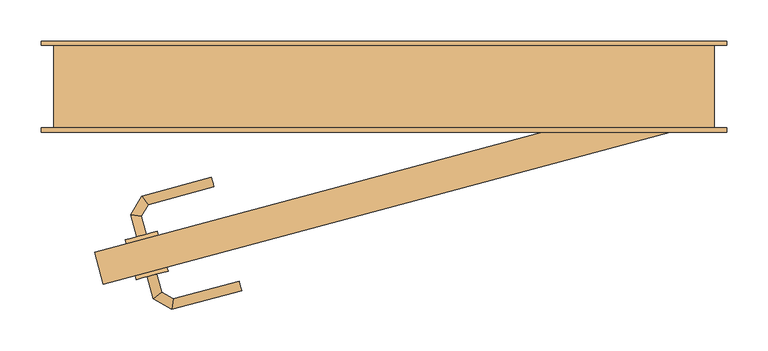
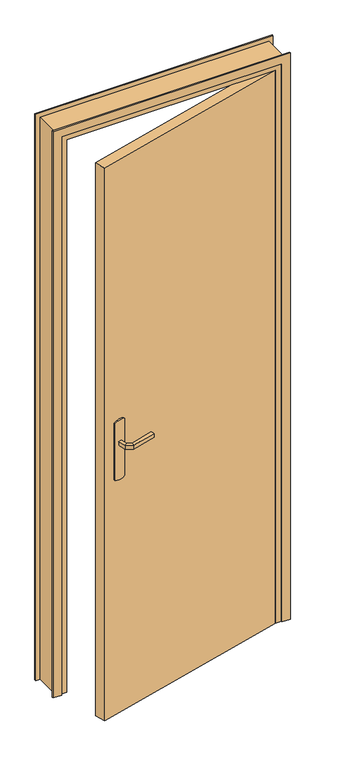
"""IFC4 building model written with IfcOpenShell, lengths in millimetres: door geometry, @_Int. Simple : @_PP (0.73m x 2.04m)."""

from ifc_helpers import new_model, si_unit, point, frame, frame_2d, origin, origin_with_axes, place, context, project, spatial, polyline, circle_curve, ellipse_curve, trimmed, segment, composite_curve, outline, extrude, faceted_brep, source, transform, mapped, element, save
from ifc_brep_helpers import plane_surface, cylinder_surface, advanced_brep


def door_9cb2127b(model_context):
    return source(origin(), model_context, "Body", "SolidModel", [
        extrude(outline(composite_curve([segment(trimmed(circle_curve(frame_2d((0.0, -40.0000001)), 40.0), [point((-34.6410162, -60.0))], [point((-34.6410162, -20.0000001))], False, "CARTESIAN"), True, "CONTINUOUS"), segment(polyline([(-34.6410162, -20.0000001), (175.3589838, -20.0000001)]), True, "CONTINUOUS"), segment(trimmed(circle_curve(frame_2d((140.7179676, -40.0000001)), 40.0), [point((175.3589838, -20.0000001))], [point((175.3589838, -60.0))], False, "CARTESIAN"), True, "CONTINUOUS"), segment(polyline([(175.3589838, -60.0), (-34.6410162, -60.0)]), True, "CONTINUOUS")], self_intersect=False)), frame((-277.2391753, -217.8856275, 904.6410162), z_axis=(-0.258819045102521, 0.9659258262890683, 0.0), x_axis=(0.0, 0.0, 1.0)), (0.0, 0.0, 1.0), 5.0),
        extrude(outline(composite_curve([segment(trimmed(circle_curve(frame_2d((0.0, -39.9999999)), 40.0), [point((34.6410162, -20.0))], [point((34.6410162, -59.9999999))], False, "CARTESIAN"), True, "CONTINUOUS"), segment(polyline([(34.6410162, -59.9999999), (-175.3589838, -59.9999999)]), True, "CONTINUOUS"), segment(trimmed(circle_curve(frame_2d((-140.7179676, -39.9999999)), 40.0), [point((-175.3589838, -59.9999999))], [point((-175.3589838, -20.0))], False, "CARTESIAN"), True, "CONTINUOUS"), segment(polyline([(-175.3589838, -20.0), (34.6410162, -20.0)]), True, "CONTINUOUS")], self_intersect=False)), frame((-288.8860324, -174.4189654, 1045.3589838), z_axis=(-0.258819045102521, 0.9659258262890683, 0.0), x_axis=(0.0, 0.0, 1.0)), (0.0, 0.0, 1.0), 5.0),
        advanced_brep(
        [(-321.6717633, -229.7913036, 1007.0), (-310.0806534, -226.6854751, 1007.0), (-310.0806534, -226.6854751, 993.0), (-321.6717633, -229.7913036, 993.0), (-314.5151707, -256.500071, 1007.0), (-304.2105371, -248.5930476, 1007.0), (-304.2105371, -248.5930476, 993.0), (-314.5151707, -256.500071, 993.0), (-292.007777, -269.4947208, 1007.0), (-290.3124106, -256.6171346, 1007.0), (-290.3124106, -256.6171346, 993.0), (-292.007777, -269.4947208, 993.0), (-207.3526557, -246.8114494, 1007.0), (-207.3526557, -246.8114494, 993.0), (-210.4584843, -235.2203395, 993.0), (-210.4584843, -235.2203395, 1007.0)],
        [
            (0, 1, circle_curve(frame((-315.8762084, -228.2383894, 986.9542278), z_axis=(-0.2588190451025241, 0.9659258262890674, 0.0), x_axis=(0.9659258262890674, 0.2588190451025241, 0.0)), 20.9244589)),
            (1, 2),
            (2, 3, circle_curve(frame((-315.8762084, -228.2383894, 1013.0457722), z_axis=(-0.2588190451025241, 0.9659258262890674, 0.0), x_axis=(0.9659258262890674, 0.2588190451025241, 0.0)), 20.9244589)),
            (3, 0),
            (0, 4),
            (4, 5, ellipse_curve(frame((-309.3628539, -252.5465593, 986.9542278), z_axis=(-0.6087614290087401, 0.7933533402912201, 0.0), x_axis=(0.7933533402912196, 0.6087614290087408, 0.0)), 22.6484711, 20.9244589)),
            (5, 1),
            (5, 6),
            (6, 2),
            (6, 7, ellipse_curve(frame((-309.3628539, -252.5465593, 1013.0457722), z_axis=(-0.6087614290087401, 0.7933533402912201, 0.0), x_axis=(0.7933533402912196, 0.6087614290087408, 0.0)), 22.6484711, 20.9244589)),
            (7, 3),
            (7, 4),
            (4, 8),
            (8, 9, ellipse_curve(frame((-291.1600938, -263.0559277, 986.9542278), z_axis=(-0.9914448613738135, 0.13052619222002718, 0.0), x_axis=(0.1305261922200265, 0.9914448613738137, 0.0)), 22.6484711, 20.9244589)),
            (9, 5),
            (9, 10),
            (10, 6),
            (10, 11, ellipse_curve(frame((-291.1600938, -263.0559277, 1013.0457722), z_axis=(-0.9914448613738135, 0.13052619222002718, 0.0), x_axis=(0.1305261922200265, 0.9914448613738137, 0.0)), 22.6484711, 20.9244589)),
            (11, 7),
            (11, 8),
            (12, 13),
            (13, 14, circle_curve(frame((-208.90557, -241.0158945, 1013.0457722), z_axis=(0.9659258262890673, 0.25881904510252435, 0.0), x_axis=(-0.25881904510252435, 0.9659258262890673, 0.0)), 20.9244589)),
            (14, 15),
            (15, 12, circle_curve(frame((-208.90557, -241.0158945, 986.9542278), z_axis=(0.9659258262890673, 0.25881904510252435, 0.0), x_axis=(-0.25881904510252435, 0.9659258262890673, 0.0)), 20.9244589)),
            (8, 12),
            (15, 9),
            (14, 10),
            (13, 11),
        ],
        [
            plane_surface(frame((-324.7816045, -230.624583, 1000.0), z_axis=(-0.2588190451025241, 0.9659258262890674, 0.0), x_axis=(0.0, 0.0, -1.0))),
            cylinder_surface(frame((-315.8762084, -228.2383894, 986.9542278), z_axis=(-0.2588190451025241, 0.9659258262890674, 0.0), x_axis=(0.9659258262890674, 0.2588190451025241, 0.0)), 20.9244589),
            plane_surface(frame((-310.0806534, -226.6854751, 1007.0), z_axis=(0.9659258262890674, 0.2588190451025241, 0.0), x_axis=(0.2588190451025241, -0.9659258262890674, 0.0))),
            cylinder_surface(frame((-315.8762084, -228.2383894, 1013.0457722), z_axis=(-0.2588190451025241, 0.9659258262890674, 0.0), x_axis=(0.9659258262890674, 0.2588190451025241, 0.0)), 20.9244589),
            plane_surface(frame((-321.6717633, -229.7913036, 993.0), z_axis=(-0.9659258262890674, -0.2588190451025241, 0.0), x_axis=(0.2588190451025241, -0.9659258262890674, 0.0))),
            cylinder_surface(frame((-309.3628539, -252.5465593, 986.9542278), z_axis=(-0.8660254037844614, 0.4999999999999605, 0.0), x_axis=(0.4999999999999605, 0.8660254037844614, 0.0)), 20.9244589),
            plane_surface(frame((-304.2105371, -248.5930476, 1007.0), z_axis=(0.4999999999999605, 0.8660254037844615, 0.0), x_axis=(0.8660254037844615, -0.4999999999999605, 0.0))),
            cylinder_surface(frame((-309.3628539, -252.5465593, 1013.0457722), z_axis=(-0.8660254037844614, 0.4999999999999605, 0.0), x_axis=(0.4999999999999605, 0.8660254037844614, 0.0)), 20.9244589),
            plane_surface(frame((-314.5151707, -256.500071, 993.0), z_axis=(-0.4999999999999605, -0.8660254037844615, 0.0), x_axis=(0.8660254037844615, -0.4999999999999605, 0.0))),
            plane_surface(frame((-208.90557, -241.0158945, 990.7804555), z_axis=(0.9659258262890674, 0.2588190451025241, 0.0), x_axis=(-0.2588190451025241, 0.9659258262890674, 0.0))),
            cylinder_surface(frame((-291.1600938, -263.0559277, 986.9542278), z_axis=(-0.9659258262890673, -0.25881904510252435, 0.0), x_axis=(-0.25881904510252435, 0.9659258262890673, 0.0)), 20.9244589),
            plane_surface(frame((-290.3124106, -256.6171346, 1007.0), z_axis=(-0.2588190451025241, 0.9659258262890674, 0.0), x_axis=(0.9659258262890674, 0.2588190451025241, 0.0))),
            cylinder_surface(frame((-291.1600938, -263.0559277, 1013.0457722), z_axis=(-0.9659258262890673, -0.25881904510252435, 0.0), x_axis=(-0.25881904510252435, 0.9659258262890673, 0.0)), 20.9244589),
            plane_surface(frame((-292.007777, -269.4947208, 993.0), z_axis=(0.2588190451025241, -0.9659258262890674, 0.0), x_axis=(0.9659258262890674, 0.2588190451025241, 0.0))),
        ],
        [
            (0, [[1, 2, 3, 4]]),
            (1, [[-1, 5, 6, 7]]),
            (2, [[-2, -7, 8, 9]]),
            (3, [[-3, -9, 10, 11]]),
            (4, [[-4, -11, 12, -5]]),
            (5, [[-6, 13, 14, 15]]),
            (6, [[-8, -15, 16, 17]]),
            (7, [[-10, -17, 18, 19]]),
            (8, [[-12, -19, 20, -13]]),
            (9, [[21, 22, 23, 24]]),
            (10, [[-14, 25, -24, 26]]),
            (11, [[-16, -26, -23, 27]]),
            (12, [[-18, -27, -22, 28]]),
            (13, [[-20, -28, -21, -25]]),
        ],
    ),
        advanced_brep(
        [(-323.0216057, -178.3891838, 993.0), (-323.0216057, -178.3891838, 1007.0), (-334.6127156, -181.4950123, 1007.0), (-334.6127156, -181.4950123, 993.0), (-328.8412048, -156.670144, 993.0), (-328.8412048, -156.670144, 1007.0), (-341.7187911, -154.9747776, 1007.0), (-341.7187911, -154.9747776, 993.0), (-320.7198845, -142.6036046, 993.0), (-320.7198845, -142.6036046, 1007.0), (-328.626908, -132.298971, 1007.0), (-328.626908, -132.298971, 993.0), (-240.9725631, -121.2353742, 993.0), (-244.0783917, -109.6442643, 993.0), (-244.0783917, -109.6442643, 1007.0), (-240.9725631, -121.2353742, 1007.0)],
        [
            (0, 1),
            (1, 2, circle_curve(frame((-328.8171606, -179.942098, 986.9542278), z_axis=(0.2588190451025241, -0.9659258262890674, 0.0), x_axis=(-0.9659258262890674, -0.2588190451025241, 0.0)), 20.9244589)),
            (2, 3),
            (3, 0, circle_curve(frame((-328.8171606, -179.942098, 1013.0457722), z_axis=(0.2588190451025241, -0.9659258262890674, 0.0), x_axis=(-0.9659258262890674, -0.2588190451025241, 0.0)), 20.9244589)),
            (0, 4),
            (4, 5),
            (5, 1),
            (5, 6, ellipse_curve(frame((-335.279998, -155.8224608, 986.9542278), z_axis=(-0.13052619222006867, -0.991444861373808, 0.0), x_axis=(0.9914448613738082, -0.1305261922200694, 0.0)), 22.6484711, 20.9244589)),
            (6, 2),
            (6, 7),
            (7, 3),
            (7, 4, ellipse_curve(frame((-335.279998, -155.8224608, 1013.0457722), z_axis=(-0.13052619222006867, -0.991444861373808, 0.0), x_axis=(0.9914448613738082, -0.1305261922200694, 0.0)), 22.6484711, 20.9244589)),
            (4, 8),
            (8, 9),
            (9, 5),
            (9, 10, ellipse_curve(frame((-324.6733962, -137.4512878, 986.9542278), z_axis=(-0.7933533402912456, -0.608761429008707, 0.0), x_axis=(0.608761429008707, -0.7933533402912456, 0.0)), 22.6484711, 20.9244589)),
            (10, 6),
            (10, 11),
            (11, 7),
            (11, 8, ellipse_curve(frame((-324.6733962, -137.4512878, 1013.0457722), z_axis=(-0.7933533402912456, -0.608761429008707, 0.0), x_axis=(0.608761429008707, -0.7933533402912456, 0.0)), 22.6484711, 20.9244589)),
            (12, 13, circle_curve(frame((-242.5254774, -115.4398192, 1013.0457722), z_axis=(0.9659258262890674, 0.2588190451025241, 0.0), x_axis=(-0.2588190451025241, 0.9659258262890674, 0.0)), 20.9244589)),
            (13, 14),
            (14, 15, circle_curve(frame((-242.5254774, -115.4398192, 986.9542278), z_axis=(0.9659258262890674, 0.2588190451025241, 0.0), x_axis=(-0.2588190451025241, 0.9659258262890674, 0.0)), 20.9244589)),
            (15, 12),
            (8, 12),
            (15, 9),
            (14, 10),
            (13, 11),
        ],
        [
            plane_surface(frame((-337.7225567, -182.3282917, 1000.0), z_axis=(0.2588190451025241, -0.9659258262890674, 0.0), x_axis=(0.0, 0.0, 1.0))),
            plane_surface(frame((-323.0216057, -178.3891838, 993.0), z_axis=(0.9659258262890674, 0.2588190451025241, 0.0), x_axis=(-0.2588190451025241, 0.9659258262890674, 0.0))),
            cylinder_surface(frame((-328.8171606, -179.942098, 986.9542278), z_axis=(0.2588190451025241, -0.9659258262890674, 0.0), x_axis=(-0.9659258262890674, -0.2588190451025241, 0.0)), 20.9244589),
            plane_surface(frame((-334.6127156, -181.4950123, 1007.0), z_axis=(-0.9659258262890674, -0.2588190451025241, 0.0), x_axis=(-0.2588190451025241, 0.9659258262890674, 0.0))),
            cylinder_surface(frame((-328.8171606, -179.942098, 1013.0457722), z_axis=(0.2588190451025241, -0.9659258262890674, 0.0), x_axis=(-0.9659258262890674, -0.2588190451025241, 0.0)), 20.9244589),
            plane_surface(frame((-328.8412048, -156.670144, 993.0), z_axis=(0.8660254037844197, -0.5000000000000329, 0.0), x_axis=(0.5000000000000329, 0.8660254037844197, 0.0))),
            cylinder_surface(frame((-335.279998, -155.8224608, 986.9542278), z_axis=(-0.5000000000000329, -0.8660254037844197, 0.0), x_axis=(-0.8660254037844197, 0.5000000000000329, 0.0)), 20.9244589),
            plane_surface(frame((-341.7187911, -154.9747776, 1007.0), z_axis=(-0.8660254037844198, 0.5000000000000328, 0.0), x_axis=(0.5000000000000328, 0.8660254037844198, 0.0))),
            cylinder_surface(frame((-335.279998, -155.8224608, 1013.0457722), z_axis=(-0.5000000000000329, -0.8660254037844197, 0.0), x_axis=(-0.8660254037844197, 0.5000000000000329, 0.0)), 20.9244589),
            plane_surface(frame((-242.5254774, -115.4398192, 990.7804555), z_axis=(0.9659258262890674, 0.2588190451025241, 0.0), x_axis=(-0.2588190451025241, 0.9659258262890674, 0.0))),
            plane_surface(frame((-320.7198845, -142.6036046, 993.0), z_axis=(0.2588190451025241, -0.9659258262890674, 0.0), x_axis=(0.9659258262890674, 0.2588190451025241, 0.0))),
            cylinder_surface(frame((-324.6733962, -137.4512878, 986.9542278), z_axis=(-0.9659258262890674, -0.2588190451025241, 0.0), x_axis=(-0.2588190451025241, 0.9659258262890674, 0.0)), 20.9244589),
            plane_surface(frame((-328.626908, -132.298971, 1007.0), z_axis=(-0.2588190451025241, 0.9659258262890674, 0.0), x_axis=(0.9659258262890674, 0.2588190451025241, 0.0))),
            cylinder_surface(frame((-324.6733962, -137.4512878, 1013.0457722), z_axis=(-0.9659258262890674, -0.2588190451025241, 0.0), x_axis=(-0.2588190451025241, 0.9659258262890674, 0.0)), 20.9244589),
        ],
        [
            (0, [[1, 2, 3, 4]]),
            (1, [[-1, 5, 6, 7]]),
            (2, [[-2, -7, 8, 9]]),
            (3, [[-3, -9, 10, 11]]),
            (4, [[-4, -11, 12, -5]]),
            (5, [[-6, 13, 14, 15]]),
            (6, [[-8, -15, 16, 17]]),
            (7, [[-10, -17, 18, 19]]),
            (8, [[-12, -19, 20, -13]]),
            (9, [[21, 22, 23, 24]]),
            (10, [[-14, 25, -24, 26]]),
            (11, [[-16, -26, -23, 27]]),
            (12, [[-18, -27, -22, 28]]),
            (13, [[-20, -28, -21, -25]]),
        ],
    ),
        extrude(outline(polyline([(-385.478615, -200.3008699), (319.6472382, -11.3629669), (330.0, -50.0), (-375.1258532, -238.9379029), (-385.478615, -200.3008699)])), origin_with_axes(), (0.0, 0.0, 1.0), 2040.0),
        faceted_brep([(-435.0, -50.0, 0.0), (-435.0, 50.0, 0.0), (-385.0, 50.0, 0.0), (-385.0, -10.0, 0.0), (-400.0, -10.0, 0.0), (-400.0, -50.0, 0.0), (-435.0, -50.0, 2075.0), (-435.0, 50.0, 2075.0), (365.0, 50.0, 2075.0), (365.0, 50.0, 0.0), (315.0, 50.0, 0.0), (315.0, 50.0, 2025.0), (-385.0, 50.0, 2025.0), (-385.0, -10.0, 2025.0), (315.0, -10.0, 2025.0), (315.0, -10.0, 0.0), (330.0, -10.0, 0.0), (330.0, -10.0, 2040.0), (-400.0, -10.0, 2040.0), (-400.0, -50.0, 2040.0), (330.0, -50.0, 2040.0), (330.0, -50.0, 0.0), (365.0, -50.0, 0.0), (365.0, -50.0, 2075.0)], [[[0, 1, 2, 3, 4, 5]], [[1, 0, 6, 7]], [[2, 1, 7, 8, 9, 10, 11, 12]], [[3, 2, 12, 13]], [[4, 3, 13, 14, 15, 16, 17, 18]], [[5, 4, 18, 19]], [[0, 5, 19, 20, 21, 22, 23, 6]], [[8, 23, 22, 9]], [[22, 21, 16, 15, 10, 9]], [[14, 11, 10, 15]], [[20, 17, 16, 21]], [[7, 6, 23, 8]], [[13, 12, 11, 14]], [[19, 18, 17, 20]]]),
        extrude(outline(polyline([(0.0, -450.0), (0.0, -420.0), (2060.0, -420.0), (2060.0, 350.0), (0.0, 350.0), (0.0, 380.0), (2090.0, 380.0), (2090.0, -450.0), (0.0, -450.0)])), frame((0.0, -55.0, 0.0), z_axis=(0.0, 1.0, 0.0), x_axis=(0.0, 0.0, 1.0)), (0.0, 0.0, 1.0), 5.0),
        extrude(outline(polyline([(0.0, -450.0), (0.0, -420.0), (2060.0, -420.0), (2060.0, 350.0), (0.0, 350.0), (0.0, 380.0), (2090.0, 380.0), (2090.0, -450.0), (0.0, -450.0)])), frame((0.0, 50.0, 0.0), z_axis=(0.0, 1.0, 0.0), x_axis=(0.0, 0.0, 1.0)), (0.0, 0.0, 1.0), 5.0),
    ])


if __name__ == "__main__":
    model = new_model("IFC4")
    model_context = context("Model", 3, world=origin())
    ifc_project = project(units=[si_unit("LENGTHUNIT", "METRE", prefix="MILLI")], contexts=[model_context])
    site = spatial("IfcSite", under=ifc_project)
    building = spatial("IfcBuilding", under=site)
    placement = place(None, origin())
    door_shape = door_9cb2127b(model_context)
    element("IfcDoor", 1, ObjectType="@_Int. Simple : @_PP (0.73m x 2.04m)", at=placement, inside=building, context=model_context, shape_type="MappedRepresentation", body=[
        mapped(door_shape, transform((0.0, 0.0, 0.0), x_axis=(1.0, 0.0, 0.0), y_axis=(0.0, 1.0, 0.0), z_axis=(0.0, 0.0, 1.0))),
    ])
    save(model, "model.ifc")
